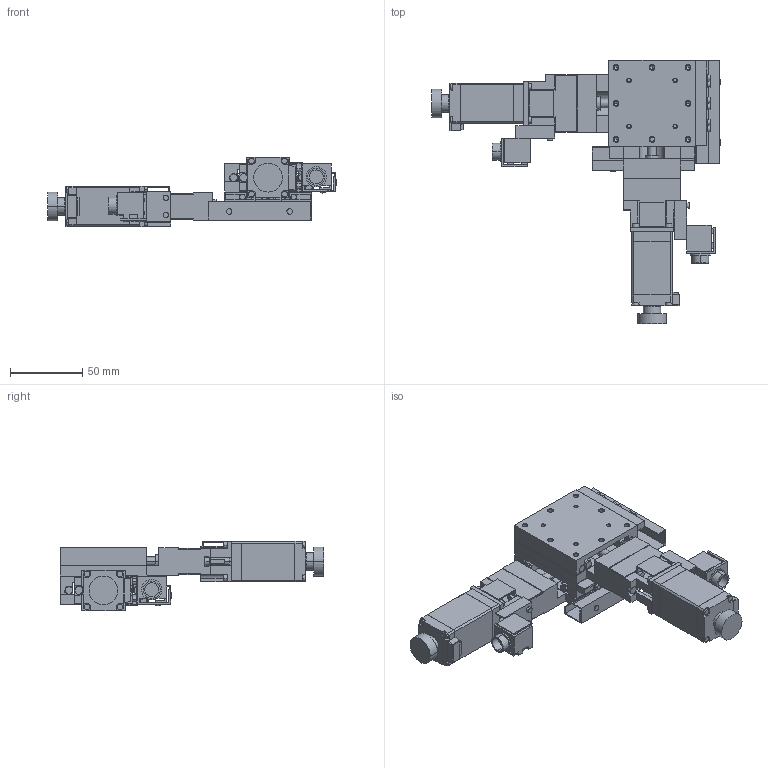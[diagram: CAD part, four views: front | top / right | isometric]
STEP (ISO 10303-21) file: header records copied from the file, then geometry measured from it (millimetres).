
FILE_DESCRIPTION(('STEP AP203'),'1');
FILE_NAME('C:/3D-Trans/3D_PMG615M-L□-D4+240122.step','2024-03-14T04:32:38',(' '),(' '),'Spatial InterOp 3D',' ',' ');
FILE_SCHEMA(('CONFIG_CONTROL_DESIGN'));
Length unit declared in the file: millimetre
Products named in the file (12): 1; 2; 3; 4; 5; 6; 7; 8; 9; 10; 11; 12
Bounding box: 200.4 x 183 x 48 mm (x, y, z)
Volume: 257895.9 mm3; surface area: 120274.7 mm2
Topology: 12 solids, 12 shells, 1482 faces, 3812 edges, 2422 vertices
Faces by surface type: plane 908, cylinder 438, cone 128, sphere 8
Entity records: 45472 total; most frequent: CARTESIAN_POINT 8056, DIRECTION 7836, ORIENTED_EDGE 7528, EDGE_CURVE 3764, LINE 2648, VECTOR 2648, AXIS2_PLACEMENT_3D 2594, VERTEX_POINT 2422
